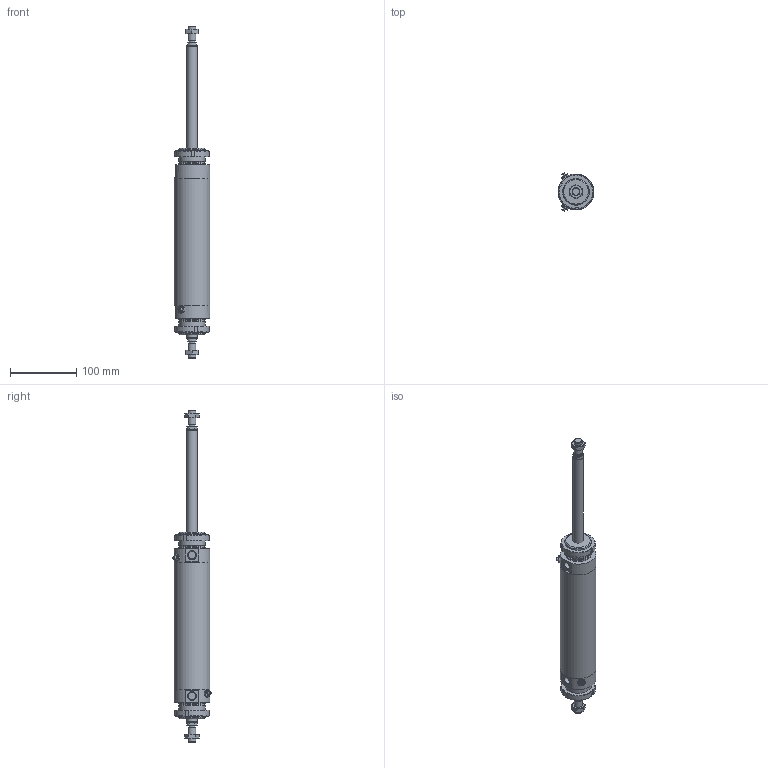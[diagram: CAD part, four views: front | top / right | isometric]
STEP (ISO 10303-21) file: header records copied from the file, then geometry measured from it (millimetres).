
FILE_DESCRIPTION(/* description */ (''),/* implementation_level */ '2;1');
FILE_NAME(/* name */ 'I:\Area Tecnica\Documenti\A-Manieri\_Inventor\12X\12X#S_###_####_#_#\12XDS_050_0150_#_#.stp',/* time_stamp */ '2015-05-13T08:20:31+02:00',/* author */ ('maniean1'),/* organization */ ('Pneumax S.p.A.'),/* preprocessor_version */ 'ST-DEVELOPER v15.2',/* originating_system */ 'Autodesk Inventor 2014',/* authorisation */ '');
FILE_SCHEMA (('AUTOMOTIVE_DESIGN { 1 0 10303 214 3 1 1 }'));
Length unit declared in the file: millimetre
Products named in the file (6): C1250_619-0150; 12X50_606; SP12X50_0150; 12X_50_11; G12X_050_05; 12XDS_050_0150_#_#
Bounding box: 54 x 57.75 x 502 mm (x, y, z)
Volume: 388379.4 mm3; surface area: 133448.1 mm2
Topology: 8 solids, 8 shells, 151 faces, 345 edges, 222 vertices
Faces by surface type: plane 78, cylinder 37, cone 34, torus 2
Full cylindrical faces by diameter (mm): 5 x2, 10.2 x2, 11 x2, 11.4 x2, 12 x4, 14 x2, 15.6 x2, 16 x2, 38.2 x2, 40 x6, 50 x2, 54 x3
Entity records: 2556 total; most frequent: CARTESIAN_POINT 505, DIRECTION 428, ORIENTED_EDGE 342, AXIS2_PLACEMENT_3D 182, EDGE_CURVE 171, EDGE_LOOP 144, VERTEX_POINT 129, ADVANCED_FACE 94
